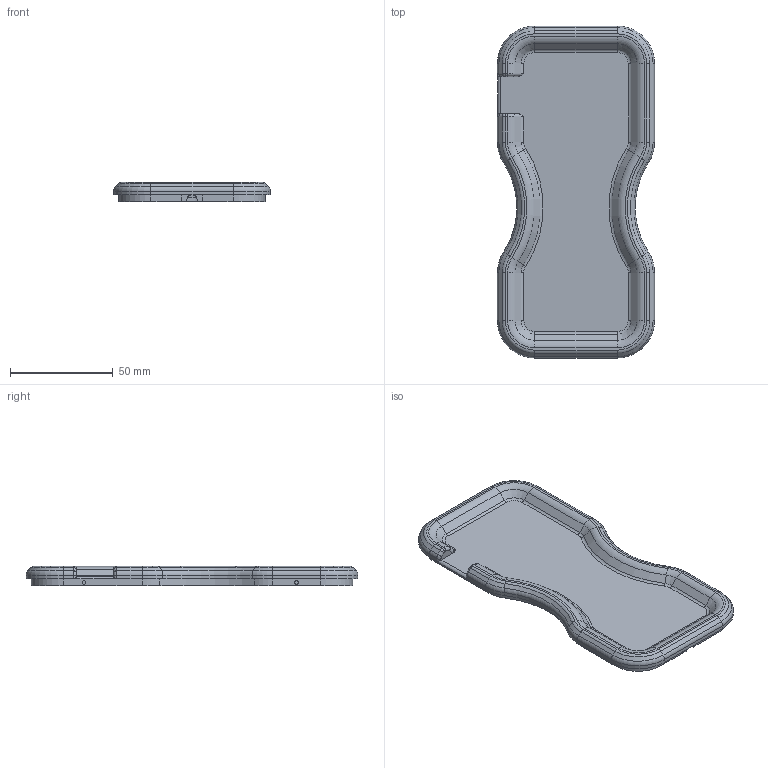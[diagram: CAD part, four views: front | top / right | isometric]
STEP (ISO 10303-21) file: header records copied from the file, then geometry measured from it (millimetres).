
FILE_DESCRIPTION(/* description */ (''),/* implementation_level */ '2;1');
FILE_NAME(/* name */ 'C:/Users/Heiko/Documents/cnc-Handrad.de/Downloads/Ladeschale normal/Ladeschale_Deckel.step',/* time_stamp */ '2021-05-21T11:46:05+02:00',/* author */ (''),/* organization */ (''),/* preprocessor_version */ 'ST-DEVELOPER v18.1',/* originating_system */ 'Autodesk Translation Framework v10.6.0.1341',/* authorisation */ '');
FILE_SCHEMA (('AUTOMOTIVE_DESIGN { 1 0 10303 214 3 1 1 }'));
Length unit declared in the file: millimetre
Products named in the file (3): Handrad Ladeschale; Komponente1; Komponente2
Assembly tree (2 placements, depth 3):
  Handrad Ladeschale
    Komponente1
      Komponente2
Bounding box: 76.34 x 161.34 x 9.3 mm (x, y, z)
Volume: 51187.7 mm3; surface area: 28027.9 mm2
Topology: 1 solids, 1 shells, 206 faces, 482 edges, 287 vertices
Faces by surface type: cylinder 73, plane 65, torus 44, cone 20, bspline 4
Full cylindrical faces by diameter (mm): 1.8 x4, 8.2 x4
Entity records: 5952 total; most frequent: DIRECTION 1132, CARTESIAN_POINT 1031, ORIENTED_EDGE 964, EDGE_CURVE 482, AXIS2_PLACEMENT_3D 446, VERTEX_POINT 287, LINE 240, VECTOR 240
